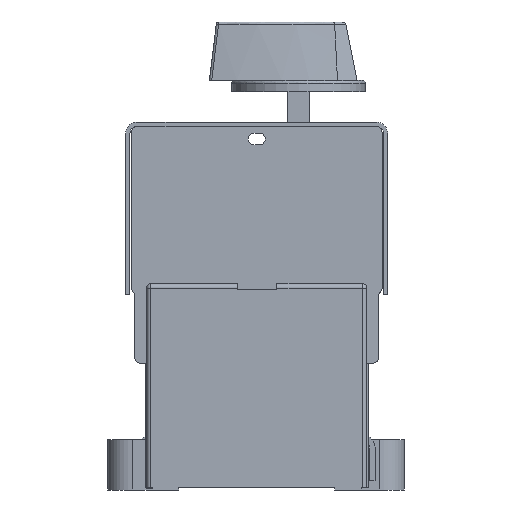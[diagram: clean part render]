
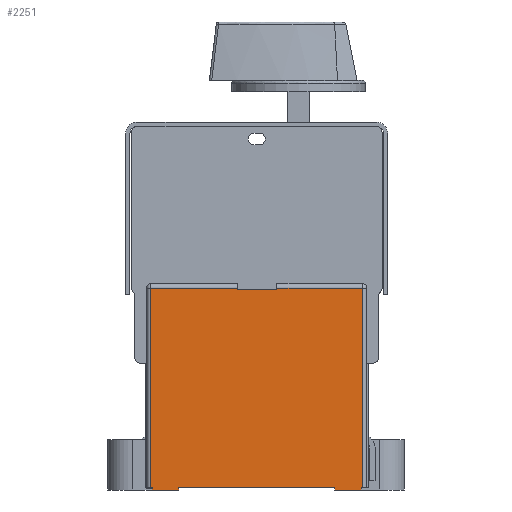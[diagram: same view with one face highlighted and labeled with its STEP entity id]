
A CAD part, left-side view. The second image highlights one B-rep face of the part: STEP entity #2251.
In plain terms, the highlighted planar face has unit normal (-1, 0, 0).
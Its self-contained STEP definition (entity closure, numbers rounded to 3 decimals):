
#842=PLANE('',#23963);
#2251=ADVANCED_FACE('',(#3697),#842,.F.);
#3697=FACE_OUTER_BOUND('',#5021,.T.);
#5021=EDGE_LOOP('',(#15466,#15467,#15468,#15469,#15470,#15471,#15472,#15473,
#15474,#15475,#15476,#15477,#15478,#15479,#15480,#15481));
#7049=LINE('',#36065,#9379);
#7051=LINE('',#36071,#9381);
#7121=LINE('',#36383,#9451);
#7137=LINE('',#36463,#9467);
#7172=LINE('',#36562,#9502);
#7177=LINE('',#36574,#9507);
#7179=LINE('',#36577,#9509);
#7185=LINE('',#36590,#9515);
#7324=LINE('',#36880,#9654);
#7325=LINE('',#36884,#9655);
#7326=LINE('',#36885,#9656);
#7327=LINE('',#36887,#9657);
#7328=LINE('',#36889,#9658);
#7329=LINE('',#36890,#9659);
#7330=LINE('',#36891,#9660);
#7331=LINE('',#36893,#9661);
#9379=VECTOR('',#29022,1.);
#9381=VECTOR('',#29028,1.);
#9451=VECTOR('',#29316,1.);
#9467=VECTOR('',#29428,1.);
#9502=VECTOR('',#29533,1.);
#9507=VECTOR('',#29540,1.);
#9509=VECTOR('',#29544,1.);
#9515=VECTOR('',#29552,1.);
#9654=VECTOR('',#29807,1.);
#9655=VECTOR('',#29812,1.);
#9656=VECTOR('',#29813,1.);
#9657=VECTOR('',#29814,1.);
#9658=VECTOR('',#29815,1.);
#9659=VECTOR('',#29816,1.);
#9660=VECTOR('',#29817,1.);
#9661=VECTOR('',#29818,1.);
#15466=ORIENTED_EDGE('',*,*,#21299,.F.);
#15467=ORIENTED_EDGE('',*,*,#21087,.T.);
#15468=ORIENTED_EDGE('',*,*,#20911,.T.);
#15469=ORIENTED_EDGE('',*,*,#21301,.F.);
#15470=ORIENTED_EDGE('',*,*,#20914,.T.);
#15471=ORIENTED_EDGE('',*,*,#21047,.T.);
#15472=ORIENTED_EDGE('',*,*,#21302,.T.);
#15473=ORIENTED_EDGE('',*,*,#21303,.T.);
#15474=ORIENTED_EDGE('',*,*,#21304,.F.);
#15475=ORIENTED_EDGE('',*,*,#21134,.F.);
#15476=ORIENTED_EDGE('',*,*,#21139,.T.);
#15477=ORIENTED_EDGE('',*,*,#21305,.T.);
#15478=ORIENTED_EDGE('',*,*,#21147,.F.);
#15479=ORIENTED_EDGE('',*,*,#21141,.F.);
#15480=ORIENTED_EDGE('',*,*,#21306,.T.);
#15481=ORIENTED_EDGE('',*,*,#21307,.T.);
#17963=VERTEX_POINT('',#36064);
#17964=VERTEX_POINT('',#36066);
#17966=VERTEX_POINT('',#36072);
#17967=VERTEX_POINT('',#36073);
#18055=VERTEX_POINT('',#36378);
#18056=VERTEX_POINT('',#36382);
#18102=VERTEX_POINT('',#36563);
#18103=VERTEX_POINT('',#36564);
#18107=VERTEX_POINT('',#36573);
#18108=VERTEX_POINT('',#36578);
#18109=VERTEX_POINT('',#36579);
#18112=VERTEX_POINT('',#36587);
#18207=VERTEX_POINT('',#36881);
#18208=VERTEX_POINT('',#36886);
#18209=VERTEX_POINT('',#36888);
#18210=VERTEX_POINT('',#36892);
#20911=EDGE_CURVE('',#17964,#17963,#7049,.T.);
#20914=EDGE_CURVE('',#17966,#17967,#7051,.T.);
#21047=EDGE_CURVE('',#17967,#18056,#7121,.T.);
#21087=EDGE_CURVE('',#18055,#17964,#7137,.T.);
#21134=EDGE_CURVE('',#18102,#18103,#7172,.T.);
#21139=EDGE_CURVE('',#18102,#18107,#7177,.T.);
#21141=EDGE_CURVE('',#18108,#18109,#7179,.T.);
#21147=EDGE_CURVE('',#18109,#18112,#7185,.T.);
#21299=EDGE_CURVE('',#18055,#18207,#7324,.T.);
#21301=EDGE_CURVE('',#17966,#17963,#7325,.T.);
#21302=EDGE_CURVE('',#18056,#18208,#7326,.T.);
#21303=EDGE_CURVE('',#18208,#18209,#7327,.T.);
#21304=EDGE_CURVE('',#18103,#18209,#7328,.T.);
#21305=EDGE_CURVE('',#18107,#18112,#7329,.T.);
#21306=EDGE_CURVE('',#18108,#18210,#7330,.T.);
#21307=EDGE_CURVE('',#18210,#18207,#7331,.T.);
#23963=AXIS2_PLACEMENT_3D('',#36894,#29819,#29820);
#29022=DIRECTION('',(0.,0.,-1.));
#29028=DIRECTION('',(0.,0.,1.));
#29316=DIRECTION('',(0.,1.,0.));
#29428=DIRECTION('',(0.,1.,0.));
#29533=DIRECTION('',(0.,1.,0.));
#29540=DIRECTION('',(0.,0.,1.));
#29544=DIRECTION('',(0.,1.,0.));
#29552=DIRECTION('',(0.,0.,1.));
#29807=DIRECTION('',(0.,0.,-1.));
#29812=DIRECTION('',(0.,-1.,0.));
#29813=DIRECTION('',(0.,0.,-1.));
#29814=DIRECTION('',(0.,-1.,0.));
#29815=DIRECTION('',(0.,0.,1.));
#29816=DIRECTION('',(0.,-1.,0.));
#29817=DIRECTION('',(0.,0.,1.));
#29818=DIRECTION('',(0.,-1.,0.));
#29819=DIRECTION('',(1.,0.,0.));
#29820=DIRECTION('',(0.,0.,-1.));
#36064=CARTESIAN_POINT('',(-69.,-31.985,67.));
#36065=CARTESIAN_POINT('',(-69.,-31.985,69.1));
#36066=CARTESIAN_POINT('',(-69.,-31.985,67.6));
#36071=CARTESIAN_POINT('',(-69.,-17.985,69.1));
#36072=CARTESIAN_POINT('',(-69.,-17.985,67.));
#36073=CARTESIAN_POINT('',(-69.,-17.985,67.6));
#36378=CARTESIAN_POINT('',(-69.,-62.735,67.6));
#36382=CARTESIAN_POINT('',(-69.,13.265,67.6));
#36383=CARTESIAN_POINT('',(-69.,13.265,67.6));
#36463=CARTESIAN_POINT('',(-69.,13.265,67.6));
#36562=CARTESIAN_POINT('',(-69.,3.265,-4.9));
#36563=CARTESIAN_POINT('',(-69.,3.265,-4.9));
#36564=CARTESIAN_POINT('',(-69.,12.765,-4.9));
#36573=CARTESIAN_POINT('',(-69.,3.265,-3.9));
#36574=CARTESIAN_POINT('',(-69.,3.265,-5.9));
#36577=CARTESIAN_POINT('',(-69.,-62.235,-4.9));
#36578=CARTESIAN_POINT('',(-69.,-62.235,-4.9));
#36579=CARTESIAN_POINT('',(-69.,-52.735,-4.9));
#36587=CARTESIAN_POINT('',(-69.,-52.735,-3.9));
#36590=CARTESIAN_POINT('',(-69.,-52.735,-5.9));
#36880=CARTESIAN_POINT('',(-69.,-62.735,69.1));
#36881=CARTESIAN_POINT('',(-69.,-62.735,-3.9));
#36884=CARTESIAN_POINT('',(-69.,12.765,67.));
#36885=CARTESIAN_POINT('',(-69.,13.265,69.1));
#36886=CARTESIAN_POINT('',(-69.,13.265,-3.9));
#36887=CARTESIAN_POINT('',(-69.,-62.235,-3.9));
#36888=CARTESIAN_POINT('',(-69.,12.765,-3.9));
#36889=CARTESIAN_POINT('',(-69.,12.765,-5.9));
#36890=CARTESIAN_POINT('',(-69.,-62.235,-3.9));
#36891=CARTESIAN_POINT('',(-69.,-62.235,-5.9));
#36892=CARTESIAN_POINT('',(-69.,-62.235,-3.9));
#36893=CARTESIAN_POINT('',(-69.,-62.235,-3.9));
#36894=CARTESIAN_POINT('',(-69.,-62.235,69.1));
